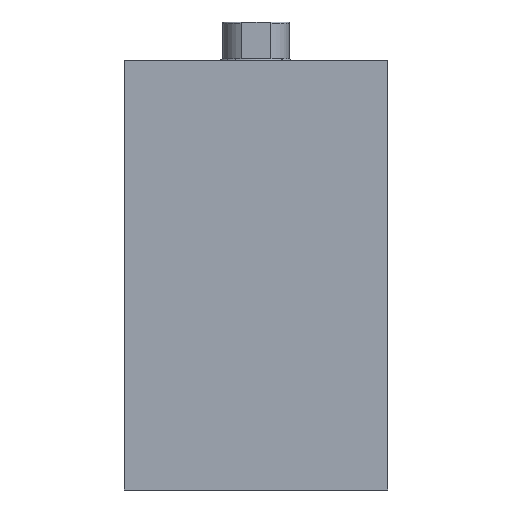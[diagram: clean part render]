
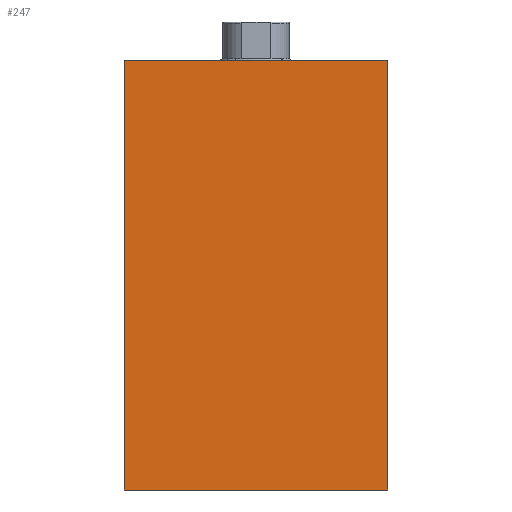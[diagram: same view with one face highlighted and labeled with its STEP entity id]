
A CAD part, left-side view. The second image highlights one B-rep face of the part: STEP entity #247.
In plain terms, the highlighted planar face has unit normal (-1, 0, 0) as drawn and (0, 0, -1) by its records, which use the part's own axes.
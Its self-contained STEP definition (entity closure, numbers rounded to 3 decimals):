
#247 = ADVANCED_FACE( '', ( #328 ), #329, .F. );
#328 = FACE_OUTER_BOUND( '', #524, .T. );
#329 = PLANE( '', #525 );
#524 = EDGE_LOOP( '', ( #739, #740, #741, #742 ) );
#525 = AXIS2_PLACEMENT_3D( '', #743, #744, #745 );
#739 = ORIENTED_EDGE( '', *, *, #1081, .T. );
#740 = ORIENTED_EDGE( '', *, *, #1097, .F. );
#741 = ORIENTED_EDGE( '', *, *, #1092, .F. );
#742 = ORIENTED_EDGE( '', *, *, #1096, .T. );
#743 = CARTESIAN_POINT( '', ( 122., -37.5, -27.5 ) );
#744 = DIRECTION( '', ( 0., 0., 1. ) );
#745 = DIRECTION( '', ( 1., 0., 0. ) );
#1081 = EDGE_CURVE( '', #1175, #1173, #1176, .T. );
#1092 = EDGE_CURVE( '', #1193, #1195, #1196, .T. );
#1096 = EDGE_CURVE( '', #1193, #1175, #1202, .T. );
#1097 = EDGE_CURVE( '', #1195, #1173, #1203, .T. );
#1173 = VERTEX_POINT( '', #1406 );
#1175 = VERTEX_POINT( '', #1409 );
#1176 = LINE( '', #1410, #1411 );
#1193 = VERTEX_POINT( '', #1600 );
#1195 = VERTEX_POINT( '', #1603 );
#1196 = LINE( '', #1604, #1605 );
#1202 = B_SPLINE_CURVE_WITH_KNOTS( '', 1, ( #1678, #1679 ), .UNSPECIFIED., .F., .F., ( 2, 2 ), ( 0., 1. ), .UNSPECIFIED. );
#1203 = B_SPLINE_CURVE_WITH_KNOTS( '', 1, ( #1680, #1681 ), .UNSPECIFIED., .F., .F., ( 2, 2 ), ( 0., 1. ), .UNSPECIFIED. );
#1406 = CARTESIAN_POINT( '', ( 0., 37.5, -27.5 ) );
#1409 = CARTESIAN_POINT( '', ( 0., -37.5, -27.5 ) );
#1410 = CARTESIAN_POINT( '', ( 0., -37.5, -27.5 ) );
#1411 = VECTOR( '', #3645, 1000. );
#1600 = CARTESIAN_POINT( '', ( 122., -37.5, -27.5 ) );
#1603 = CARTESIAN_POINT( '', ( 122., 37.5, -27.5 ) );
#1604 = CARTESIAN_POINT( '', ( 122., -37.5, -27.5 ) );
#1605 = VECTOR( '', #3649, 1000. );
#1678 = CARTESIAN_POINT( '', ( 122., -37.5, -27.5 ) );
#1679 = CARTESIAN_POINT( '', ( 0., -37.5, -27.5 ) );
#1680 = CARTESIAN_POINT( '', ( 122., 37.5, -27.5 ) );
#1681 = CARTESIAN_POINT( '', ( 0., 37.5, -27.5 ) );
#3645 = DIRECTION( '', ( 0., 1., 0. ) );
#3649 = DIRECTION( '', ( 0., 1., 0. ) );
